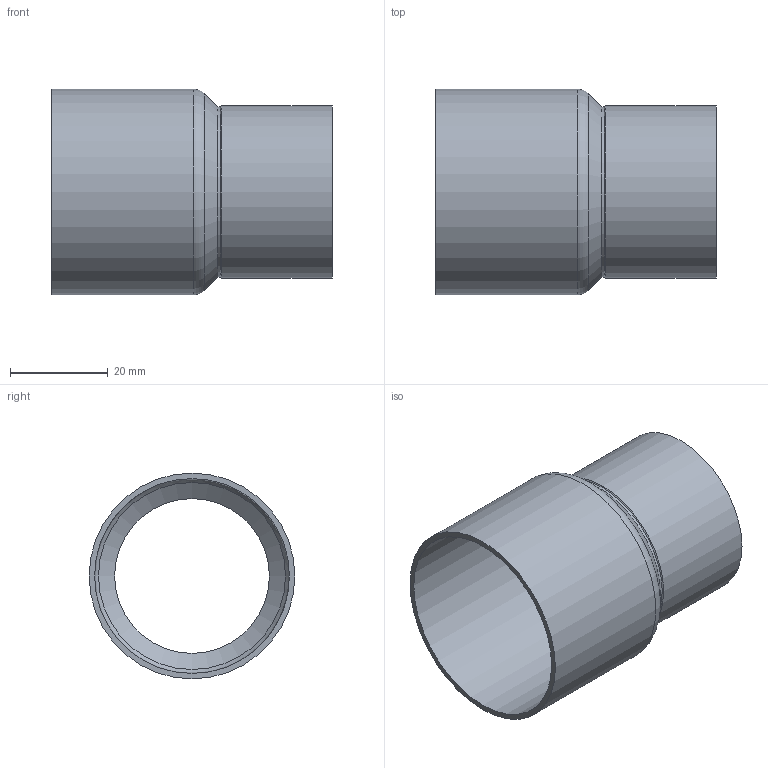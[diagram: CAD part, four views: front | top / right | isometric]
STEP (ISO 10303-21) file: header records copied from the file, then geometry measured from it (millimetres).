
FILE_DESCRIPTION((''),'2;1');
FILE_NAME('G:\SANHA-TERNAT\Technik\Management\Bouwmaten\z-maattekeningen 3D\5000\5243\152434232.stp','2010-10-26T16:26:43',('vdvijverd'),(''),'Autodesk Inventor 2009','Autodesk Inventor 2009','');
FILE_SCHEMA(('AUTOMOTIVE_DESIGN { 1 0 10303 214 1 1 1 1 }'));
Length unit declared in the file: millimetre
Products named in the file (1): 152434232
Bounding box: 57.3 x 42 x 42 mm (x, y, z)
Volume: 9034.7 mm3; surface area: 14245.5 mm2
Topology: 1 solids, 1 shells, 14 faces, 26 edges, 14 vertices
Faces by surface type: cylinder 6, cone 4, plane 2, bspline 1, torus 1
Full cylindrical faces by diameter (mm): 31.6 x1, 32 x1, 34.75 x1, 35.15 x1, 39.8 x1, 42 x1
Entity records: 354 total; most frequent: CARTESIAN_POINT 87, DIRECTION 56, AXIS2_PLACEMENT_3D 28, ORIENTED_EDGE 28, EDGE_LOOP 28, VERTEX_POINT 14, CIRCLE 14, EDGE_CURVE 14
